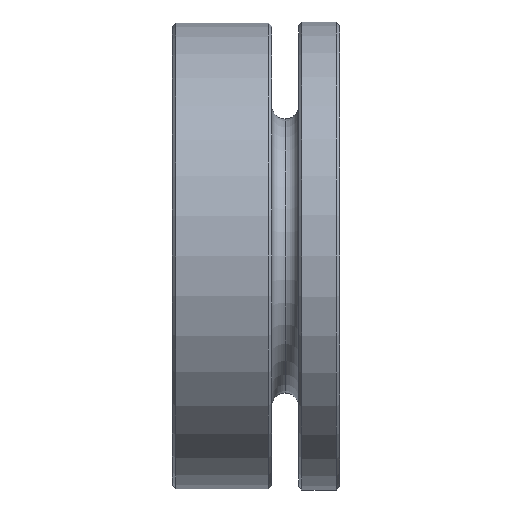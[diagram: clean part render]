
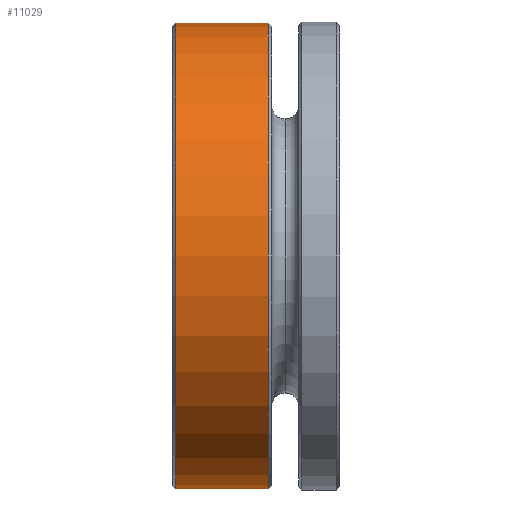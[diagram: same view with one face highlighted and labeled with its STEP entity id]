
A CAD part, left-side view. The second image highlights one B-rep face of the part: STEP entity #11029.
In plain terms, the highlighted cylindrical face has radius 34.85 mm (diameter 69.7 mm), a partial arc.
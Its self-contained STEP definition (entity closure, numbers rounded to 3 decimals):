
#12 = EDGE_CURVE ( 'NONE', #3788, #3516, #15948, .T. ) ;
#92 = EDGE_CURVE ( 'NONE', #3510, #3539, #16373, .T. ) ;
#1169 = EDGE_CURVE ( 'NONE', #3516, #3510, #9747, .T. ) ;
#3510 = VERTEX_POINT ( 'NONE', #11050 ) ;
#3516 = VERTEX_POINT ( 'NONE', #11055 ) ;
#3539 = VERTEX_POINT ( 'NONE', #11064 ) ;
#3628 = EDGE_LOOP ( 'NONE', ( #15116, #15115, #15168, #15146 ) ) ;
#3788 = VERTEX_POINT ( 'NONE', #11159 ) ;
#8773 = DIRECTION ( 'NONE',  ( 0., -1., 0. ) ) ;
#8779 = FACE_OUTER_BOUND ( 'NONE', #3628, .T. ) ;
#8780 = CARTESIAN_POINT ( 'NONE',  ( 0., 0., 0. ) ) ;
#8781 = CYLINDRICAL_SURFACE ( 'NONE', #19857, 34.85 ) ;
#8785 = DIRECTION ( 'NONE',  ( 0., 0., -1. ) ) ;
#8964 = EDGE_CURVE ( 'NONE', #3788, #3539, #11224, .T. ) ;
#9747 = LINE ( 'NONE', #9752, #16251 ) ;
#9752 = CARTESIAN_POINT ( 'NONE',  ( 0., 0., -34.85 ) ) ;
#9753 = DIRECTION ( 'NONE',  ( 0., -1., 0. ) ) ;
#11029 = ADVANCED_FACE ( 'NONE', ( #8779 ), #8781, .T. ) ;
#11050 = CARTESIAN_POINT ( 'NONE',  ( 0., 10.64, -34.85 ) ) ;
#11055 = CARTESIAN_POINT ( 'NONE',  ( 0., 24.5, -34.85 ) ) ;
#11064 = CARTESIAN_POINT ( 'NONE',  ( 0., 10.64, 34.85 ) ) ;
#11159 = CARTESIAN_POINT ( 'NONE',  ( 0., 24.5, 34.85 ) ) ;
#11224 = LINE ( 'NONE', #11229, #19900 ) ;
#11229 = CARTESIAN_POINT ( 'NONE',  ( 0., 0., 34.85 ) ) ;
#11230 = DIRECTION ( 'NONE',  ( 0., -1., 0. ) ) ;
#15115 = ORIENTED_EDGE ( 'NONE', *, *, #12, .T. ) ;
#15116 = ORIENTED_EDGE ( 'NONE', *, *, #8964, .F. ) ;
#15146 = ORIENTED_EDGE ( 'NONE', *, *, #92, .T. ) ;
#15168 = ORIENTED_EDGE ( 'NONE', *, *, #1169, .T. ) ;
#15444 = DIRECTION ( 'NONE',  ( 0., 0., 1. ) ) ;
#15445 = DIRECTION ( 'NONE',  ( 0., 1., 0. ) ) ;
#15446 = CARTESIAN_POINT ( 'NONE',  ( 0., 10.64, 0. ) ) ;
#15809 = DIRECTION ( 'NONE',  ( 0., 0., -1. ) ) ;
#15811 = DIRECTION ( 'NONE',  ( 0., -1., 0. ) ) ;
#15812 = CARTESIAN_POINT ( 'NONE',  ( 0., 24.5, 0. ) ) ;
#15948 = CIRCLE ( 'NONE', #16314, 34.85 ) ;
#15990 = AXIS2_PLACEMENT_3D ( 'NONE', #15446, #15445, #15444 ) ;
#16251 = VECTOR ( 'NONE', #9753, 1000. ) ;
#16314 = AXIS2_PLACEMENT_3D ( 'NONE', #15812, #15811, #15809 ) ;
#16373 = CIRCLE ( 'NONE', #15990, 34.85 ) ;
#19857 = AXIS2_PLACEMENT_3D ( 'NONE', #8780, #8773, #8785 ) ;
#19900 = VECTOR ( 'NONE', #11230, 1000. ) ;
